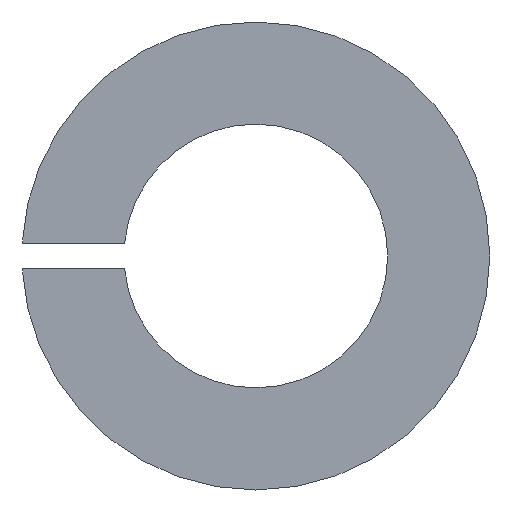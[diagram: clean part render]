
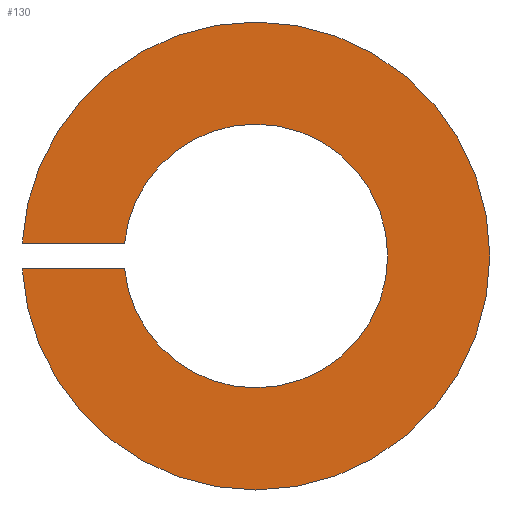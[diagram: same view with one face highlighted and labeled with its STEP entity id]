
A CAD part, left-side view. The second image highlights one B-rep face of the part: STEP entity #130.
In plain terms, the highlighted planar face has unit normal (-1, 0, 0).
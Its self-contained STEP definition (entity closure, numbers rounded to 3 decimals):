
#1 = CARTESIAN_POINT ( 'NONE',  ( 0., 9.036, 0.5 ) ) ;
#9 = ORIENTED_EDGE ( 'NONE', *, *, #218, .F. ) ;
#12 = CARTESIAN_POINT ( 'NONE',  ( 0., 0., 9.05 ) ) ;
#14 = VECTOR ( 'NONE', #250, 1000. ) ;
#16 = CARTESIAN_POINT ( 'NONE',  ( 0., 0., 0. ) ) ;
#18 = DIRECTION ( 'NONE',  ( -1., 0., 0. ) ) ;
#21 = VERTEX_POINT ( 'NONE', #252 ) ;
#22 = AXIS2_PLACEMENT_3D ( 'NONE', #16, #167, #335 ) ;
#23 = EDGE_CURVE ( 'NONE', #21, #176, #117, .T. ) ;
#30 = DIRECTION ( 'NONE',  ( 0., 0., 1. ) ) ;
#32 = VERTEX_POINT ( 'NONE', #12 ) ;
#38 = ORIENTED_EDGE ( 'NONE', *, *, #316, .T. ) ;
#40 = AXIS2_PLACEMENT_3D ( 'NONE', #143, #177, #123 ) ;
#41 = CIRCLE ( 'NONE', #103, 9.05 ) ;
#43 = DIRECTION ( 'NONE',  ( 0., 0., 1. ) ) ;
#50 = CIRCLE ( 'NONE', #270, 5.1 ) ;
#52 = DIRECTION ( 'NONE',  ( -1., 0., 0. ) ) ;
#55 = VERTEX_POINT ( 'NONE', #193 ) ;
#60 = VERTEX_POINT ( 'NONE', #116 ) ;
#66 = ORIENTED_EDGE ( 'NONE', *, *, #328, .F. ) ;
#82 = VERTEX_POINT ( 'NONE', #173 ) ;
#93 = EDGE_CURVE ( 'NONE', #219, #55, #321, .T. ) ;
#94 = CIRCLE ( 'NONE', #338, 9.05 ) ;
#99 = ORIENTED_EDGE ( 'NONE', *, *, #23, .F. ) ;
#101 = DIRECTION ( 'NONE',  ( 0., 0., 1. ) ) ;
#102 = CARTESIAN_POINT ( 'NONE',  ( 0., 0., 0. ) ) ;
#103 = AXIS2_PLACEMENT_3D ( 'NONE', #102, #240, #101 ) ;
#104 = CIRCLE ( 'NONE', #174, 5.1 ) ;
#105 = VECTOR ( 'NONE', #113, 1000. ) ;
#109 = EDGE_CURVE ( 'NONE', #60, #82, #201, .T. ) ;
#113 = DIRECTION ( 'NONE',  ( 0., -1., 0. ) ) ;
#116 = CARTESIAN_POINT ( 'NONE',  ( 0., 9.036, -0.5 ) ) ;
#117 = CIRCLE ( 'NONE', #22, 5.1 ) ;
#123 = DIRECTION ( 'NONE',  ( 0., 0., 1. ) ) ;
#125 = EDGE_LOOP ( 'NONE', ( #234, #9, #99, #66, #131, #289, #38, #294 ) ) ;
#130 = ADVANCED_FACE ( 'NONE', ( #275 ), #341, .F. ) ;
#131 = ORIENTED_EDGE ( 'NONE', *, *, #322, .T. ) ;
#143 = CARTESIAN_POINT ( 'NONE',  ( 0., 0., 0. ) ) ;
#145 = DIRECTION ( 'NONE',  ( 1., 0., 0. ) ) ;
#167 = DIRECTION ( 'NONE',  ( -1., 0., 0. ) ) ;
#173 = CARTESIAN_POINT ( 'NONE',  ( 0., 0., -9.05 ) ) ;
#174 = AXIS2_PLACEMENT_3D ( 'NONE', #184, #52, #30 ) ;
#176 = VERTEX_POINT ( 'NONE', #263 ) ;
#177 = DIRECTION ( 'NONE',  ( -1., 0., 0. ) ) ;
#184 = CARTESIAN_POINT ( 'NONE',  ( 0., 0., 0. ) ) ;
#188 = EDGE_CURVE ( 'NONE', #32, #219, #41, .T. ) ;
#191 = VERTEX_POINT ( 'NONE', #266 ) ;
#193 = CARTESIAN_POINT ( 'NONE',  ( 0., 5.075, 0.5 ) ) ;
#199 = CARTESIAN_POINT ( 'NONE',  ( 0., 9.05, -0.5 ) ) ;
#201 = CIRCLE ( 'NONE', #40, 9.05 ) ;
#207 = CARTESIAN_POINT ( 'NONE',  ( 0., 9.05, 0. ) ) ;
#218 = EDGE_CURVE ( 'NONE', #176, #55, #104, .T. ) ;
#219 = VERTEX_POINT ( 'NONE', #1 ) ;
#224 = DIRECTION ( 'NONE',  ( -1., 0., 0. ) ) ;
#234 = ORIENTED_EDGE ( 'NONE', *, *, #93, .T. ) ;
#240 = DIRECTION ( 'NONE',  ( -1., 0., 0. ) ) ;
#249 = CARTESIAN_POINT ( 'NONE',  ( 0., 0., 0. ) ) ;
#250 = DIRECTION ( 'NONE',  ( 0., 1., 0. ) ) ;
#251 = CARTESIAN_POINT ( 'NONE',  ( 0., 0., 0. ) ) ;
#252 = CARTESIAN_POINT ( 'NONE',  ( 0., 0., -5.1 ) ) ;
#254 = DIRECTION ( 'NONE',  ( 0., 0., 1. ) ) ;
#263 = CARTESIAN_POINT ( 'NONE',  ( 0., 0., 5.1 ) ) ;
#266 = CARTESIAN_POINT ( 'NONE',  ( 0., 5.075, -0.5 ) ) ;
#270 = AXIS2_PLACEMENT_3D ( 'NONE', #251, #224, #254 ) ;
#275 = FACE_OUTER_BOUND ( 'NONE', #125, .T. ) ;
#289 = ORIENTED_EDGE ( 'NONE', *, *, #109, .T. ) ;
#294 = ORIENTED_EDGE ( 'NONE', *, *, #188, .T. ) ;
#304 = AXIS2_PLACEMENT_3D ( 'NONE', #207, #145, #309 ) ;
#309 = DIRECTION ( 'NONE',  ( 0., 0., -1. ) ) ;
#316 = EDGE_CURVE ( 'NONE', #82, #32, #94, .T. ) ;
#321 = LINE ( 'NONE', #337, #105 ) ;
#322 = EDGE_CURVE ( 'NONE', #191, #60, #329, .T. ) ;
#328 = EDGE_CURVE ( 'NONE', #191, #21, #50, .T. ) ;
#329 = LINE ( 'NONE', #199, #14 ) ;
#335 = DIRECTION ( 'NONE',  ( 0., 0., 1. ) ) ;
#337 = CARTESIAN_POINT ( 'NONE',  ( 0., 9.05, 0.5 ) ) ;
#338 = AXIS2_PLACEMENT_3D ( 'NONE', #249, #18, #43 ) ;
#341 = PLANE ( 'NONE',  #304 ) ;
